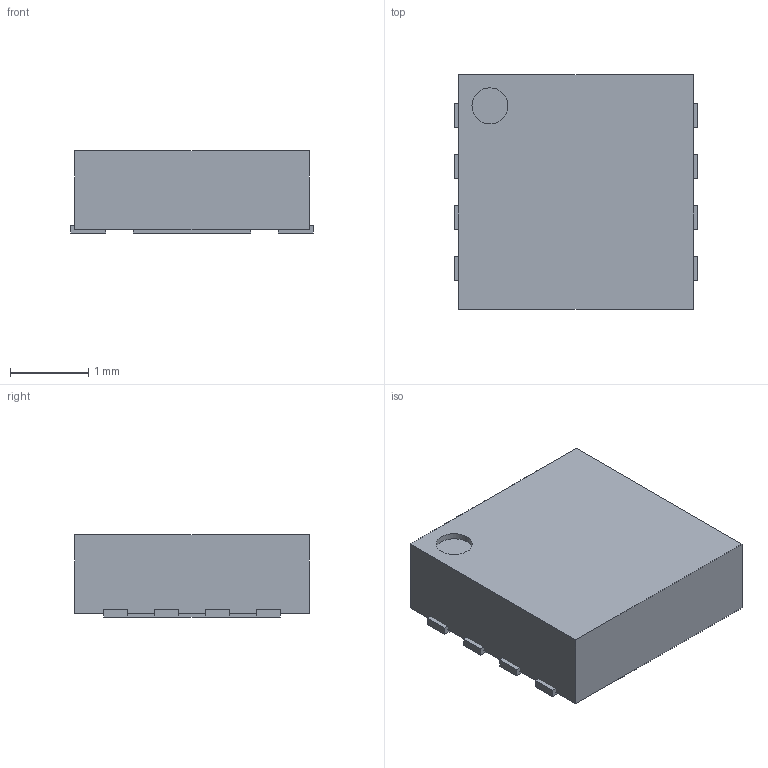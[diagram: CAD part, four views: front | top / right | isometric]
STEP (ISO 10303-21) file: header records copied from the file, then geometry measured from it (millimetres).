
FILE_DESCRIPTION(('FreeCAD Model'),'2;1');
FILE_NAME('Open CASCADE Shape Model','2026-10-15T23:44:23',('FreeCAD'),( 'FreeCAD'),'Open CASCADE STEP processor 7.8','FreeCAD','Unknown');
FILE_SCHEMA(('AUTOMOTIVE_DESIGN { 1 0 10303 214 1 1 1 1 }'));
Length unit declared in the file: millimetre
Products named in the file (1): Open CASCADE STEP translator 7.8 1
Bounding box: 3.1 x 3 x 1.05 mm (x, y, z)
Volume: 9.4 mm3; surface area: 39.5 mm2
Topology: 10 solids, 10 shells, 62 faces, 123 edges, 82 vertices
Faces by surface type: plane 61, cylinder 1
Full cylindrical faces by diameter (mm): 0.46 x1
Entity records: 1561 total; most frequent: CARTESIAN_POINT 268, DIRECTION 251, ORIENTED_EDGE 246, EDGE_CURVE 123, LINE 121, VECTOR 121, VERTEX_POINT 82, AXIS2_PLACEMENT_3D 65
